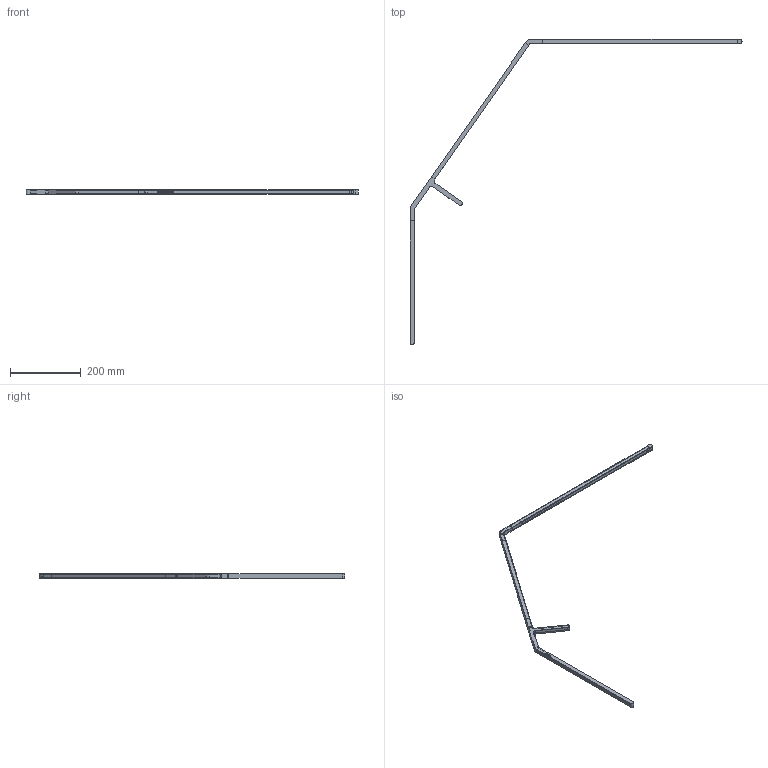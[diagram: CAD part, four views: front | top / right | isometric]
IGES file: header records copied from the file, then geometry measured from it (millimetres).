
Start section: SolidWorks IGES file using analytic representation for surfaces
Global section: file name: N:\- Ingeneria\DISEGNI\PRODOTTI\BIRD\Nuova cartella (2)\800BIRLNN111_BIRD TAVOLO.IGS; native system: SolidWorks 2016; preprocessor: SolidWorks 2016; author: merba; date: 190308.185755; units: millimetre
Bounding box: 936.93 x 862.89 x 12 mm (x, y, z)
Surface area: 140766.4 mm2 (no closed solid volume)
Topology: 0 solids, 0 shells, 141 faces, 1243 edges, 1241 vertices
Faces by surface type: bspline 109, revolution 32
